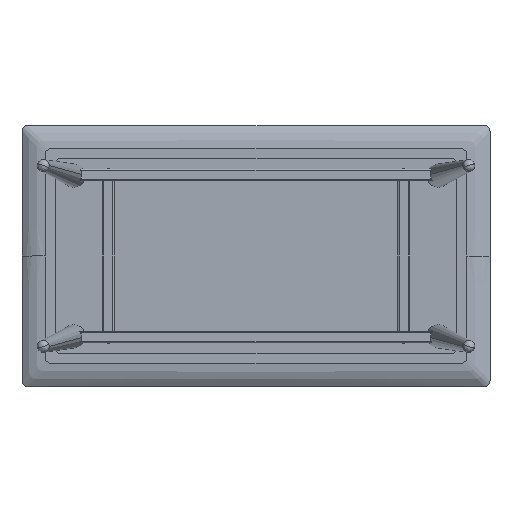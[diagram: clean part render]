
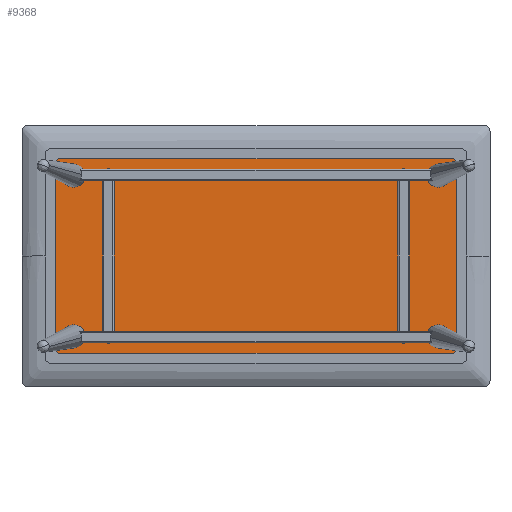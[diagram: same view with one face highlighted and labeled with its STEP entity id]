
A CAD part, front view. The second image highlights one B-rep face of the part: STEP entity #9368.
In plain terms, the highlighted planar face has unit normal (0, -1, 0).
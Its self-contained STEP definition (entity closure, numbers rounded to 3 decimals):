
#85 = CARTESIAN_POINT ( 'NONE',  ( 673.5, 725., 316. ) ) ;
#617 = DIRECTION ( 'NONE',  ( 0., 0., -1. ) ) ;
#760 = DIRECTION ( 'NONE',  ( 0., -1., 0. ) ) ;
#1287 = CIRCLE ( 'NONE', #2994, 20. ) ;
#1386 = EDGE_CURVE ( 'NONE', #7535, #10658, #8494, .T. ) ;
#2994 = AXIS2_PLACEMENT_3D ( 'NONE', #9242, #4317, #617 ) ;
#3089 = LINE ( 'NONE', #9307, #15983 ) ;
#3259 = ORIENTED_EDGE ( 'NONE', *, *, #5246, .T. ) ;
#3274 = CARTESIAN_POINT ( 'NONE',  ( -673.5, 725., -336. ) ) ;
#3658 = VECTOR ( 'NONE', #3719, 1000. ) ;
#3719 = DIRECTION ( 'NONE',  ( 1., 0., 0. ) ) ;
#3829 = EDGE_CURVE ( 'NONE', #8535, #9273, #3089, .T. ) ;
#4212 = CARTESIAN_POINT ( 'NONE',  ( 693.5, 725., 316. ) ) ;
#4304 = DIRECTION ( 'NONE',  ( 0., 0., -1. ) ) ;
#4317 = DIRECTION ( 'NONE',  ( 0., -1., 0. ) ) ;
#4571 = FACE_OUTER_BOUND ( 'NONE', #9584, .T. ) ;
#4769 = CIRCLE ( 'NONE', #9347, 20. ) ;
#4860 = ORIENTED_EDGE ( 'NONE', *, *, #8638, .T. ) ;
#4939 = ORIENTED_EDGE ( 'NONE', *, *, #6704, .T. ) ;
#5246 = EDGE_CURVE ( 'NONE', #10749, #9163, #9482, .T. ) ;
#5391 = DIRECTION ( 'NONE',  ( 0., -1., 0. ) ) ;
#5812 = CARTESIAN_POINT ( 'NONE',  ( -693.5, 725., 316. ) ) ;
#5984 = LINE ( 'NONE', #11712, #12651 ) ;
#6417 = EDGE_CURVE ( 'NONE', #9163, #7535, #8848, .T. ) ;
#6699 = VERTEX_POINT ( 'NONE', #11321 ) ;
#6704 = EDGE_CURVE ( 'NONE', #10658, #13537, #4769, .T. ) ;
#7219 = CIRCLE ( 'NONE', #14843, 20. ) ;
#7353 = EDGE_CURVE ( 'NONE', #13537, #6699, #5984, .T. ) ;
#7425 = CARTESIAN_POINT ( 'NONE',  ( 673.5, 725., 336. ) ) ;
#7469 = DIRECTION ( 'NONE',  ( 0., 0., 1. ) ) ;
#7535 = VERTEX_POINT ( 'NONE', #10735 ) ;
#8230 = ORIENTED_EDGE ( 'NONE', *, *, #1386, .T. ) ;
#8407 = DIRECTION ( 'NONE',  ( 0., -1., 0. ) ) ;
#8494 = LINE ( 'NONE', #4212, #8873 ) ;
#8535 = VERTEX_POINT ( 'NONE', #5812 ) ;
#8638 = EDGE_CURVE ( 'NONE', #6699, #8535, #7219, .T. ) ;
#8728 = AXIS2_PLACEMENT_3D ( 'NONE', #9544, #760, #10743 ) ;
#8848 = CIRCLE ( 'NONE', #8728, 20. ) ;
#8873 = VECTOR ( 'NONE', #7469, 1000. ) ;
#9061 = CARTESIAN_POINT ( 'NONE',  ( -673.5, 725., 316. ) ) ;
#9163 = VERTEX_POINT ( 'NONE', #13275 ) ;
#9167 = PLANE ( 'NONE',  #16128 ) ;
#9205 = DIRECTION ( 'NONE',  ( -1., 0., 0. ) ) ;
#9242 = CARTESIAN_POINT ( 'NONE',  ( -673.5, 725., -316. ) ) ;
#9255 = DIRECTION ( 'NONE',  ( 0., 0., 1. ) ) ;
#9273 = VERTEX_POINT ( 'NONE', #11994 ) ;
#9307 = CARTESIAN_POINT ( 'NONE',  ( -693.5, 725., 316. ) ) ;
#9347 = AXIS2_PLACEMENT_3D ( 'NONE', #85, #5391, #9255 ) ;
#9368 = ADVANCED_FACE ( 'NONE', ( #4571 ), #9167, .T. ) ;
#9482 = LINE ( 'NONE', #11198, #3658 ) ;
#9544 = CARTESIAN_POINT ( 'NONE',  ( 673.5, 725., -316. ) ) ;
#9584 = EDGE_LOOP ( 'NONE', ( #4860, #13314, #14915, #3259, #16240, #8230, #4939, #11247 ) ) ;
#10658 = VERTEX_POINT ( 'NONE', #14337 ) ;
#10735 = CARTESIAN_POINT ( 'NONE',  ( 693.5, 725., -316. ) ) ;
#10743 = DIRECTION ( 'NONE',  ( 0., 0., 1. ) ) ;
#10749 = VERTEX_POINT ( 'NONE', #3274 ) ;
#11198 = CARTESIAN_POINT ( 'NONE',  ( -673.5, 725., -336. ) ) ;
#11247 = ORIENTED_EDGE ( 'NONE', *, *, #7353, .T. ) ;
#11321 = CARTESIAN_POINT ( 'NONE',  ( -673.5, 725., 336. ) ) ;
#11712 = CARTESIAN_POINT ( 'NONE',  ( -673.5, 725., 336. ) ) ;
#11793 = EDGE_CURVE ( 'NONE', #9273, #10749, #1287, .T. ) ;
#11994 = CARTESIAN_POINT ( 'NONE',  ( -693.5, 725., -316. ) ) ;
#12651 = VECTOR ( 'NONE', #9205, 1000. ) ;
#12972 = DIRECTION ( 'NONE',  ( 0., -1., 0. ) ) ;
#13275 = CARTESIAN_POINT ( 'NONE',  ( 673.5, 725., -336. ) ) ;
#13314 = ORIENTED_EDGE ( 'NONE', *, *, #3829, .T. ) ;
#13537 = VERTEX_POINT ( 'NONE', #7425 ) ;
#14337 = CARTESIAN_POINT ( 'NONE',  ( 693.5, 725., 316. ) ) ;
#14528 = DIRECTION ( 'NONE',  ( 0., 0., -1. ) ) ;
#14760 = CARTESIAN_POINT ( 'NONE',  ( -673.5, 725., 316. ) ) ;
#14843 = AXIS2_PLACEMENT_3D ( 'NONE', #14760, #8407, #16126 ) ;
#14915 = ORIENTED_EDGE ( 'NONE', *, *, #11793, .T. ) ;
#15983 = VECTOR ( 'NONE', #14528, 1000. ) ;
#16126 = DIRECTION ( 'NONE',  ( 0., 0., -1. ) ) ;
#16128 = AXIS2_PLACEMENT_3D ( 'NONE', #9061, #12972, #4304 ) ;
#16240 = ORIENTED_EDGE ( 'NONE', *, *, #6417, .T. ) ;
